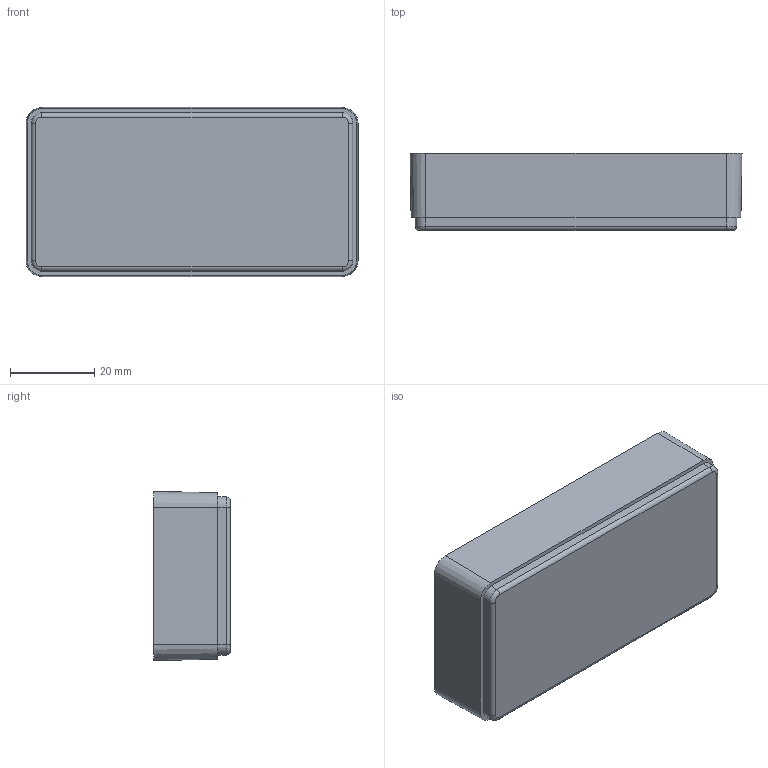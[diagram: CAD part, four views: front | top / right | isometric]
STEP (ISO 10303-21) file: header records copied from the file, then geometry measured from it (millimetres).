
FILE_DESCRIPTION (( 'STEP AP214' ), '1' );
FILE_NAME ('Cos PP12.STEP', '2016-10-12T15:12:17', ( 'aaa' ), ( '' ), 'SwSTEP 2.0', 'SolidWorks 2013', '' );
FILE_SCHEMA (( 'AUTOMOTIVE_DESIGN' ));
Length unit declared in the file: millimetre
Products named in the file (1): Cos PP12
Bounding box: 79.03 x 18.3 x 40.23 mm (x, y, z)
Volume: 14036.1 mm3; surface area: 14207.1 mm2
Topology: 1 solids, 1 shells, 54 faces, 124 edges, 80 vertices
Faces by surface type: plane 22, cylinder 20, cone 8, torus 4
Entity records: 1578 total; most frequent: DIRECTION 294, CARTESIAN_POINT 259, ORIENTED_EDGE 248, EDGE_CURVE 124, AXIS2_PLACEMENT_3D 115, VERTEX_POINT 80, LINE 64, VECTOR 64
